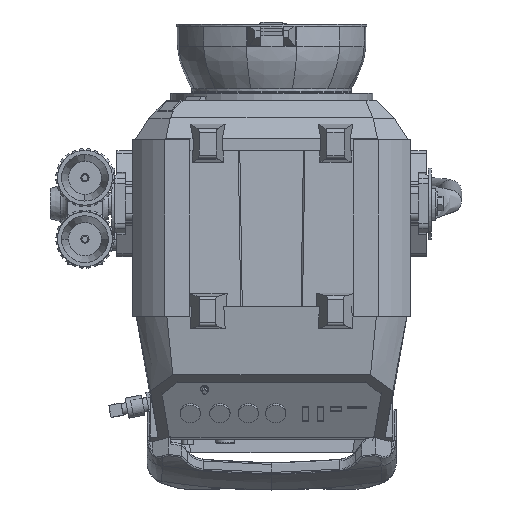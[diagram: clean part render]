
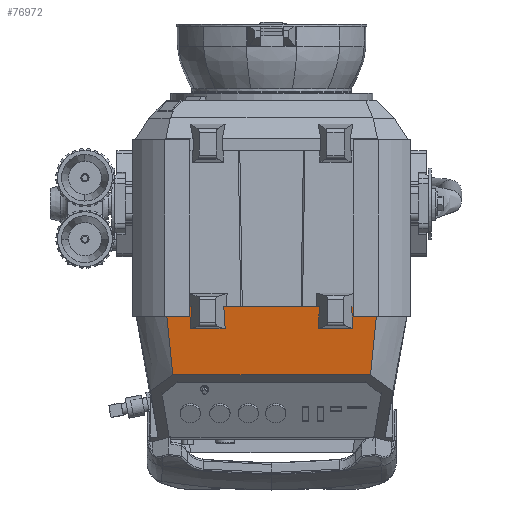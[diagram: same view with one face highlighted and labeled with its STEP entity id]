
A CAD part, front view. The second image highlights one B-rep face of the part: STEP entity #76972.
In plain terms, the highlighted planar face has unit normal (0, -0.994, -0.106).
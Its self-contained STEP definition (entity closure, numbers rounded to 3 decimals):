
#509 = VECTOR ( 'NONE', #86372, 1000. ) ;
#2356 = DIRECTION ( 'NONE',  ( -1., 0., 0. ) ) ;
#2524 = LINE ( 'NONE', #82009, #85998 ) ;
#2657 = DIRECTION ( 'NONE',  ( 0., -0.994, -0.106 ) ) ;
#2705 = DIRECTION ( 'NONE',  ( -0.06, -0.105, 0.993 ) ) ;
#3732 = CARTESIAN_POINT ( 'NONE',  ( 47.141, -141.248, -155.66 ) ) ;
#3791 = VECTOR ( 'NONE', #85897, 1000. ) ;
#4045 = CARTESIAN_POINT ( 'NONE',  ( -80.189, -138.93, -177.492 ) ) ;
#4205 = LINE ( 'NONE', #75817, #74064 ) ;
#4624 = CARTESIAN_POINT ( 'NONE',  ( -97.483, -134.122, -222.771 ) ) ;
#5505 = DIRECTION ( 'NONE',  ( 0.06, -0.105, 0.993 ) ) ;
#7270 = VECTOR ( 'NONE', #20536, 1000. ) ;
#7327 = VECTOR ( 'NONE', #13167, 1000. ) ;
#8603 = VECTOR ( 'NONE', #5505, 1000. ) ;
#8860 = CARTESIAN_POINT ( 'NONE',  ( 80.501, -141.248, -155.662 ) ) ;
#9681 = CARTESIAN_POINT ( 'NONE',  ( -80.501, -141.248, -155.66 ) ) ;
#10835 = VECTOR ( 'NONE', #42653, 1000. ) ;
#11099 = VECTOR ( 'NONE', #39668, 1000. ) ;
#11173 = VERTEX_POINT ( 'NONE', #51630 ) ;
#11306 = CARTESIAN_POINT ( 'NONE',  ( 104.214, -138.93, -177.492 ) ) ;
#13167 = DIRECTION ( 'NONE',  ( 0., -0.106, 0.994 ) ) ;
#13366 = VERTEX_POINT ( 'NONE', #9681 ) ;
#13653 = LINE ( 'NONE', #76722, #7270 ) ;
#14736 = ORIENTED_EDGE ( 'NONE', *, *, #63367, .F. ) ;
#14897 = VERTEX_POINT ( 'NONE', #4045 ) ;
#15547 = CARTESIAN_POINT ( 'NONE',  ( -100.247, -137.048, -195.215 ) ) ;
#15604 = VECTOR ( 'NONE', #74360, 1000. ) ;
#16940 = ORIENTED_EDGE ( 'NONE', *, *, #74870, .F. ) ;
#17848 = DIRECTION ( 'NONE',  ( -1., 0., 0. ) ) ;
#18655 = LINE ( 'NONE', #26239, #3791 ) ;
#20205 = VERTEX_POINT ( 'NONE', #3732 ) ;
#20210 = CARTESIAN_POINT ( 'NONE',  ( -78.859, -141.248, -155.66 ) ) ;
#20536 = DIRECTION ( 'NONE',  ( -1., 0., 0. ) ) ;
#20617 = CARTESIAN_POINT ( 'NONE',  ( 45.842, -138.984, -176.982 ) ) ;
#20920 = EDGE_CURVE ( 'NONE', #14897, #52080, #78373, .T. ) ;
#21122 = FACE_OUTER_BOUND ( 'NONE', #86750, .T. ) ;
#21394 = CARTESIAN_POINT ( 'NONE',  ( 80.501, -141.248, -155.66 ) ) ;
#22276 = VECTOR ( 'NONE', #64190, 1000. ) ;
#23109 = LINE ( 'NONE', #15547, #78107 ) ;
#26239 = CARTESIAN_POINT ( 'NONE',  ( 0., -141.248, -155.66 ) ) ;
#26664 = EDGE_CURVE ( 'NONE', #47808, #55151, #29221, .T. ) ;
#28694 = LINE ( 'NONE', #66723, #8603 ) ;
#28829 = ORIENTED_EDGE ( 'NONE', *, *, #31024, .T. ) ;
#29221 = LINE ( 'NONE', #51803, #67365 ) ;
#29332 = CARTESIAN_POINT ( 'NONE',  ( 80.501, -140.238, -165.171 ) ) ;
#30765 = ORIENTED_EDGE ( 'NONE', *, *, #36234, .T. ) ;
#31024 = EDGE_CURVE ( 'NONE', #78223, #59888, #23109, .T. ) ;
#31492 = EDGE_CURVE ( 'NONE', #55151, #81282, #64140, .T. ) ;
#33626 = EDGE_CURVE ( 'NONE', #56378, #58025, #4205, .T. ) ;
#34024 = CARTESIAN_POINT ( 'NONE',  ( 100.247, -137.048, -195.215 ) ) ;
#34049 = VECTOR ( 'NONE', #2705, 1000. ) ;
#34129 = CARTESIAN_POINT ( 'NONE',  ( 0., -141.248, -155.66 ) ) ;
#34451 = DIRECTION ( 'NONE',  ( 1., 0., 0. ) ) ;
#35212 = VERTEX_POINT ( 'NONE', #42176 ) ;
#35642 = ORIENTED_EDGE ( 'NONE', *, *, #67954, .T. ) ;
#36234 = EDGE_CURVE ( 'NONE', #52080, #13366, #18655, .T. ) ;
#38032 = CARTESIAN_POINT ( 'NONE',  ( 78.859, -141.248, -155.66 ) ) ;
#38048 = EDGE_CURVE ( 'NONE', #45296, #20205, #28694, .T. ) ;
#38582 = LINE ( 'NONE', #66911, #509 ) ;
#39297 = ORIENTED_EDGE ( 'NONE', *, *, #82906, .T. ) ;
#39668 = DIRECTION ( 'NONE',  ( -1., 0., 0. ) ) ;
#40032 = VECTOR ( 'NONE', #17848, 1000. ) ;
#42176 = CARTESIAN_POINT ( 'NONE',  ( -80.501, -140.238, -165.171 ) ) ;
#42653 = DIRECTION ( 'NONE',  ( 0., 0.106, -0.994 ) ) ;
#43408 = CARTESIAN_POINT ( 'NONE',  ( 103.261, -140.238, -165.172 ) ) ;
#45013 = LINE ( 'NONE', #53252, #11099 ) ;
#45296 = VERTEX_POINT ( 'NONE', #20617 ) ;
#46361 = LINE ( 'NONE', #11306, #40032 ) ;
#46574 = EDGE_CURVE ( 'NONE', #47709, #47808, #84856, .T. ) ;
#46776 = CARTESIAN_POINT ( 'NONE',  ( -103.261, -140.238, -165.172 ) ) ;
#47325 = DIRECTION ( 'NONE',  ( -0.099, 0.105, -0.99 ) ) ;
#47709 = VERTEX_POINT ( 'NONE', #21394 ) ;
#47808 = VERTEX_POINT ( 'NONE', #29332 ) ;
#49916 = ORIENTED_EDGE ( 'NONE', *, *, #20920, .T. ) ;
#50077 = EDGE_CURVE ( 'NONE', #47709, #58025, #66382, .T. ) ;
#51245 = DIRECTION ( 'NONE',  ( 1., 0., 0. ) ) ;
#51630 = CARTESIAN_POINT ( 'NONE',  ( -47.141, -141.248, -155.66 ) ) ;
#51794 = ORIENTED_EDGE ( 'NONE', *, *, #46574, .F. ) ;
#51803 = CARTESIAN_POINT ( 'NONE',  ( 104.214, -140.238, -165.172 ) ) ;
#51928 = ORIENTED_EDGE ( 'NONE', *, *, #80349, .T. ) ;
#52080 = VERTEX_POINT ( 'NONE', #20210 ) ;
#53252 = CARTESIAN_POINT ( 'NONE',  ( 104.214, -138.984, -176.982 ) ) ;
#53575 = EDGE_CURVE ( 'NONE', #56378, #45296, #45013, .T. ) ;
#54127 = ORIENTED_EDGE ( 'NONE', *, *, #50077, .T. ) ;
#54628 = ORIENTED_EDGE ( 'NONE', *, *, #31492, .F. ) ;
#55151 = VERTEX_POINT ( 'NONE', #43408 ) ;
#56378 = VERTEX_POINT ( 'NONE', #81243 ) ;
#56746 = PLANE ( 'NONE',  #67742 ) ;
#58025 = VERTEX_POINT ( 'NONE', #38032 ) ;
#59640 = ORIENTED_EDGE ( 'NONE', *, *, #26664, .F. ) ;
#59888 = VERTEX_POINT ( 'NONE', #4624 ) ;
#61329 = CARTESIAN_POINT ( 'NONE',  ( -80.501, -141.25, -155.643 ) ) ;
#61518 = EDGE_CURVE ( 'NONE', #78223, #35212, #2524, .T. ) ;
#63367 = EDGE_CURVE ( 'NONE', #35212, #13366, #86625, .T. ) ;
#64140 = LINE ( 'NONE', #34024, #87364 ) ;
#64190 = DIRECTION ( 'NONE',  ( 0.06, -0.105, 0.993 ) ) ;
#66382 = LINE ( 'NONE', #34129, #15604 ) ;
#66648 = ORIENTED_EDGE ( 'NONE', *, *, #38048, .T. ) ;
#66723 = CARTESIAN_POINT ( 'NONE',  ( 47.35, -141.612, -152.234 ) ) ;
#66911 = CARTESIAN_POINT ( 'NONE',  ( 104.214, -134.122, -222.771 ) ) ;
#67318 = ORIENTED_EDGE ( 'NONE', *, *, #61518, .F. ) ;
#67365 = VECTOR ( 'NONE', #51245, 1000. ) ;
#67742 = AXIS2_PLACEMENT_3D ( 'NONE', #83593, #2657, #2356 ) ;
#67927 = LINE ( 'NONE', #83648, #34049 ) ;
#67954 = EDGE_CURVE ( 'NONE', #20205, #11173, #13653, .T. ) ;
#68762 = DIRECTION ( 'NONE',  ( -0.06, -0.105, 0.993 ) ) ;
#69600 = ORIENTED_EDGE ( 'NONE', *, *, #33626, .F. ) ;
#69721 = DIRECTION ( 'NONE',  ( 0.099, 0.105, -0.99 ) ) ;
#74064 = VECTOR ( 'NONE', #68762, 1000. ) ;
#74360 = DIRECTION ( 'NONE',  ( -1., 0., 0. ) ) ;
#74870 = EDGE_CURVE ( 'NONE', #79702, #11173, #67927, .T. ) ;
#75817 = CARTESIAN_POINT ( 'NONE',  ( 78.952, -141.086, -157.182 ) ) ;
#76722 = CARTESIAN_POINT ( 'NONE',  ( 0., -141.248, -155.66 ) ) ;
#76972 = ADVANCED_FACE ( 'NONE', ( #21122 ), #56746, .T. ) ;
#77695 = CARTESIAN_POINT ( 'NONE',  ( -45.811, -138.93, -177.492 ) ) ;
#78107 = VECTOR ( 'NONE', #69721, 1000. ) ;
#78223 = VERTEX_POINT ( 'NONE', #46776 ) ;
#78373 = LINE ( 'NONE', #85734, #22276 ) ;
#79702 = VERTEX_POINT ( 'NONE', #77695 ) ;
#80349 = EDGE_CURVE ( 'NONE', #79702, #14897, #46361, .T. ) ;
#81243 = CARTESIAN_POINT ( 'NONE',  ( 80.158, -138.984, -176.982 ) ) ;
#81282 = VERTEX_POINT ( 'NONE', #84820 ) ;
#81911 = ORIENTED_EDGE ( 'NONE', *, *, #53575, .T. ) ;
#82009 = CARTESIAN_POINT ( 'NONE',  ( 104.215, -140.239, -165.167 ) ) ;
#82906 = EDGE_CURVE ( 'NONE', #59888, #81282, #38582, .T. ) ;
#83593 = CARTESIAN_POINT ( 'NONE',  ( 104.214, -141.248, -155.66 ) ) ;
#83648 = CARTESIAN_POINT ( 'NONE',  ( -46.587, -140.283, -164.746 ) ) ;
#84820 = CARTESIAN_POINT ( 'NONE',  ( 97.483, -134.122, -222.771 ) ) ;
#84856 = LINE ( 'NONE', #8860, #10835 ) ;
#85734 = CARTESIAN_POINT ( 'NONE',  ( -78.189, -142.415, -144.67 ) ) ;
#85897 = DIRECTION ( 'NONE',  ( -1., 0., 0. ) ) ;
#85998 = VECTOR ( 'NONE', #34451, 1000. ) ;
#86372 = DIRECTION ( 'NONE',  ( 1., 0., 0. ) ) ;
#86625 = LINE ( 'NONE', #61329, #7327 ) ;
#86750 = EDGE_LOOP ( 'NONE', ( #51794, #54127, #69600, #81911, #66648, #35642, #16940, #51928, #49916, #30765, #14736, #67318, #28829, #39297, #54628, #59640 ) ) ;
#87364 = VECTOR ( 'NONE', #47325, 1000. ) ;
